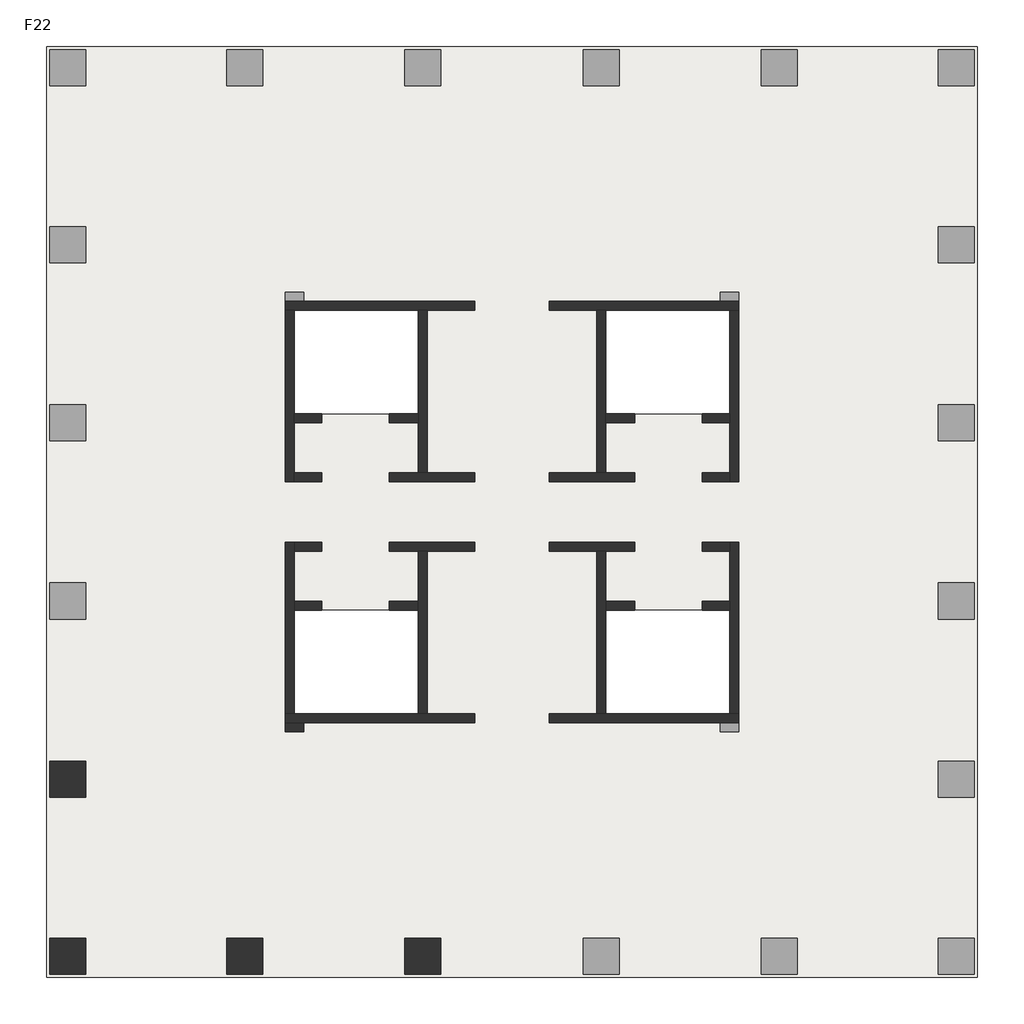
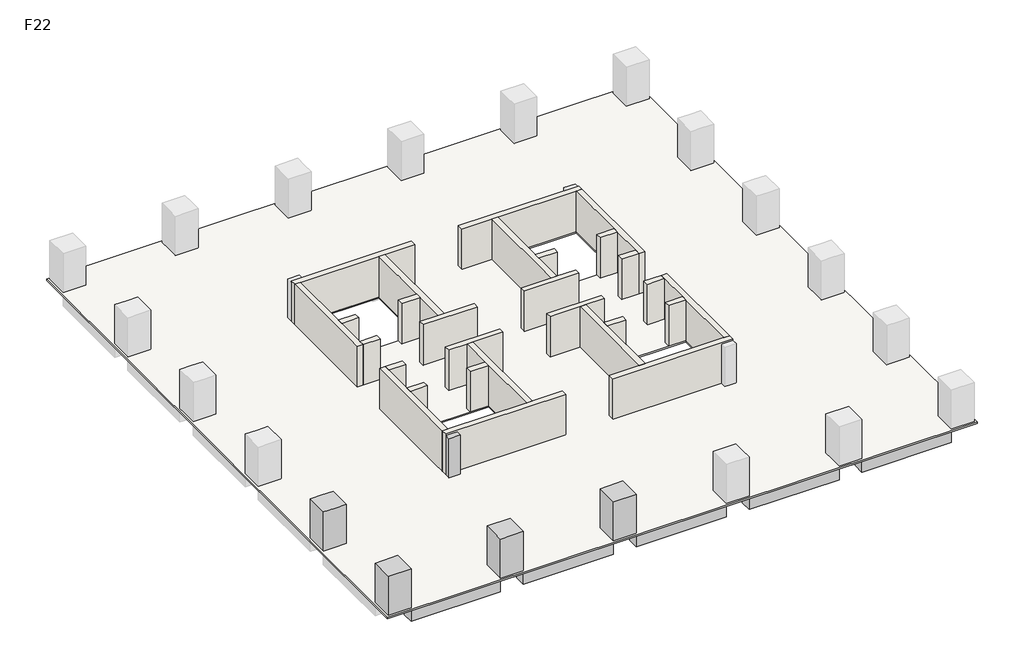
# One storey, part 1 of 2: 28 walls, 5 columns, 3 beams, 1 slab.
"""IFC4 building model written with IfcOpenShell, lengths in millimetres."""

from ifc_helpers import new_model, si_unit, frame, origin, place, context, project, spatial, polyline, outline, extrude, faceted_brep, element, save

model = new_model("IFC4")

# Units and contexts
model_context = context("Model", 3, world=origin())
ifc_project = project(units=[si_unit("LENGTHUNIT", "METRE", prefix="MILLI")], contexts=[model_context])

# Site, building, storey
site = spatial("IfcSite", under=ifc_project)
building = spatial("IfcBuilding", under=site)
storey = spatial("IfcBuildingStorey", under=building, Name="F22", Elevation=84000.0)

# Beams
placement = place(None, origin())
element("IfcBeam", 1, ObjectType="混凝土 - 矩形梁 : KL(5)-800x1000", at=placement, inside=storey, context=model_context, shape_type="SweptSolid", body=[
    extrude(outline(polyline([(-12472.6742169, -13948.9501342), (-12472.6742169, -13148.9501342), (-6222.6742169, -13148.9501342), (-6222.6742169, -13948.9501342), (-12472.6742169, -13948.9501342)])), frame((0.0, 0.0, 83000.0), z_axis=(0.0, 0.0, 1.0), x_axis=(1.0, 0.0, 0.0)), (0.0, 0.0, 1.0), 900.0),
    extrude(outline(polyline([(25327.3257831, -13148.9501342), (25327.3257831, -13948.9501342), (19077.3257831, -13948.9501342), (19077.3257831, -13148.9501342), (25327.3257831, -13148.9501342)])), frame((0.0, 0.0, 83000.0), z_axis=(0.0, 0.0, 1.0), x_axis=(1.0, 0.0, 0.0)), (0.0, 0.0, 1.0), 900.0),
    extrude(outline(polyline([(-4622.6742169, -13948.9501342), (-4622.6742169, -13148.9501342), (1677.3257831, -13148.9501342), (1677.3257831, -13948.9501342), (-4622.6742169, -13948.9501342)])), frame((0.0, 0.0, 83000.0), z_axis=(0.0, 0.0, 1.0), x_axis=(1.0, 0.0, 0.0)), (0.0, 0.0, 1.0), 900.0),
    extrude(outline(polyline([(3277.3257831, -13948.9501342), (3277.3257831, -13148.9501342), (9577.3257831, -13148.9501342), (9577.3257831, -13948.9501342), (3277.3257831, -13948.9501342)])), frame((0.0, 0.0, 83000.0), z_axis=(0.0, 0.0, 1.0), x_axis=(1.0, 0.0, 0.0)), (0.0, 0.0, 1.0), 900.0),
    extrude(outline(polyline([(11177.3257831, -13948.9501342), (11177.3257831, -13148.9501342), (17477.3257831, -13148.9501342), (17477.3257831, -13948.9501342), (11177.3257831, -13948.9501342)])), frame((0.0, 0.0, 83000.0), z_axis=(0.0, 0.0, 1.0), x_axis=(1.0, 0.0, 0.0)), (0.0, 0.0, 1.0), 900.0),
])
element("IfcBeam", 2, ObjectType="混凝土 - 矩形梁 : L1-800x500", at=placement, inside=storey, context=model_context, shape_type="Brep", body=[
    faceted_brep([(-12472.6742169, -5512.1353397, 83500.0), (-3746.9473979, -3341.556529, 83500.0), (-3173.6696907, -3198.9501342, 83500.0), (-3173.6696907, -3198.9501342, 83900.0), (-3746.9473979, -3341.556529, 83900.0), (-12472.6742169, -5512.1353397, 83900.0), (-3622.6742169, -3198.9501342, 83500.0), (-12472.6742169, -4687.7549784, 83500.0), (-3622.6742169, -2486.2624411, 83500.0), (-3622.6742169, -2798.9501342, 83500.0), (-12472.6742169, -4687.7549784, 83900.0), (-3622.6742169, -2486.2624411, 83900.0), (-3622.6742169, -3198.9501342, 83900.0)], [[[0, 1, 2, 3, 4, 5]], [[6, 2, 1, 0, 7, 8, 9]], [[8, 7, 10, 11]], [[2, 6, 12, 3]], [[9, 8, 11, 12, 6]], [[7, 0, 5, 10]], [[5, 4, 3, 12, 11, 10]]]),
])
element("IfcBeam", 3, ObjectType="混凝土 - 矩形梁 : L1-800x500", at=placement, inside=storey, context=model_context, shape_type="SweptSolid", body=[
    extrude(outline(polyline([(-3746.9473979, -3341.556529), (-3173.6696907, -3198.9501342), (-2898.7618154, -3198.9501342), (-4843.6893517, -12348.9501342), (-5661.5624638, -12348.9501342), (-3746.9473979, -3341.556529)])), frame((0.0, 0.0, 83500.0), z_axis=(0.0, 0.0, 1.0), x_axis=(1.0, 0.0, 0.0)), (0.0, 0.0, 1.0), 400.0),
])

# Columns
element("IfcColumn", 4, ObjectType="混凝土 - 矩形 - 柱 : Z1-1600x1600", at=placement, inside=storey, context=model_context, shape_type="Brep", body=[
    faceted_brep([(-12472.6742169, -4498.9501342, 84000.0), (-12472.6742169, -6098.9501342, 84000.0), (-14072.6742169, -6098.9501342, 84000.0), (-14072.6742169, -4498.9501342, 84000.0), (-12472.6742169, -4498.9501342, 86900.0), (-12472.6742169, -6098.9501342, 86900.0), (-13272.6742169, -6098.9501342, 86900.0), (-14072.6742169, -6098.9501342, 86900.0), (-14072.6742169, -6098.9501342, 86000.0), (-14072.6742169, -4498.9501342, 86900.0), (-14072.6742169, -4498.9501342, 86000.0), (-13272.6742169, -4498.9501342, 86900.0)], [[[0, 1, 2, 3]], [[1, 0, 4, 5]], [[2, 1, 5, 6, 7, 8]], [[3, 2, 8, 7, 9, 10]], [[0, 3, 10, 9, 11, 4]], [[5, 4, 11, 9, 7, 6]]]),
])
element("IfcColumn", 5, ObjectType="混凝土 - 矩形 - 柱 : Z1-1600x1600", at=placement, inside=storey, context=model_context, shape_type="SweptSolid", body=[
    extrude(outline(polyline([(-12472.6742169, -12348.9501342), (-12472.6742169, -13948.9501342), (-14072.6742169, -13948.9501342), (-14072.6742169, -12348.9501342), (-12472.6742169, -12348.9501342)])), frame((0.0, 0.0, 84000.0), z_axis=(0.0, 0.0, 1.0), x_axis=(1.0, 0.0, 0.0)), (0.0, 0.0, 1.0), 2900.0),
])
element("IfcColumn", 6, ObjectType="混凝土 - 矩形 - 柱 : Z1-1600x1600", at=placement, inside=storey, context=model_context, shape_type="Brep", body=[
    faceted_brep([(-4622.6742169, -12348.9501342, 84000.0), (-4622.6742169, -13948.9501342, 84000.0), (-6222.6742169, -13948.9501342, 84000.0), (-6222.6742169, -12348.9501342, 84000.0), (-4622.6742169, -12348.9501342, 86900.0), (-4622.6742169, -13148.9501342, 86900.0), (-4622.6742169, -13948.9501342, 86900.0), (-4622.6742169, -13948.9501342, 86000.0), (-6222.6742169, -13948.9501342, 86900.0), (-6222.6742169, -13948.9501342, 86000.0), (-6222.6742169, -13148.9501342, 86900.0), (-6222.6742169, -12348.9501342, 86900.0)], [[[0, 1, 2, 3]], [[1, 0, 4, 5, 6, 7]], [[2, 1, 7, 6, 8, 9]], [[3, 2, 9, 8, 10, 11]], [[0, 3, 11, 4]], [[6, 5, 4, 11, 10, 8]]]),
])
element("IfcColumn", 7, ObjectType="混凝土 - 矩形 - 柱 : Z1-1600x1600", at=placement, inside=storey, context=model_context, shape_type="Brep", body=[
    faceted_brep([(3277.3257831, -12348.9501342, 84000.0), (3277.3257831, -13948.9501342, 84000.0), (1677.3257831, -13948.9501342, 84000.0), (1677.3257831, -12348.9501342, 84000.0), (3277.3257831, -12348.9501342, 86900.0), (3277.3257831, -13148.9501342, 86900.0), (3277.3257831, -13948.9501342, 86900.0), (3277.3257831, -13948.9501342, 86000.0), (1677.3257831, -13948.9501342, 86900.0), (1677.3257831, -13948.9501342, 86000.0), (1677.3257831, -13148.9501342, 86900.0), (1677.3257831, -12348.9501342, 86900.0)], [[[0, 1, 2, 3]], [[1, 0, 4, 5, 6, 7]], [[2, 1, 7, 6, 8, 9]], [[3, 2, 9, 8, 10, 11]], [[0, 3, 11, 4]], [[6, 5, 4, 11, 10, 8]]]),
])
element("IfcColumn", 8, ObjectType="混凝土 - 矩形 - 柱 : Z2-800x800", at=placement, inside=storey, context=model_context, shape_type="SweptSolid", body=[
    extrude(outline(polyline([(-2822.6742169, -3198.9501342), (-3622.6742169, -3198.9501342), (-3622.6742169, -2798.9501342), (-2822.6742169, -2798.9501342), (-2822.6742169, -3198.9501342)])), frame((0.0, 0.0, 84000.0), z_axis=(0.0, 0.0, 1.0), x_axis=(1.0, 0.0, 0.0)), (0.0, 0.0, 1.0), 2900.0),
])

# Slab
element("IfcSlab", 9, ObjectType="LB-100", at=placement, inside=storey, context=model_context, shape_type="SweptSolid", body=[
    extrude(outline(polyline([(27077.3257831, 27201.0498658), (27077.3257831, -14085.2672073), (-14222.6742169, -14085.2672073), (-14222.6742169, 27201.0498658), (27077.3257831, 27201.0498658)]), holes=[polyline([(2277.3257831, 15501.0498658), (-3222.6742169, 15501.0498658), (-3222.6742169, 10901.0498658), (2277.3257831, 10901.0498658), (2277.3257831, 15501.0498658)]), polyline([(2277.3257831, 2201.0498658), (-3222.6742169, 2201.0498658), (-3222.6742169, -2398.9501342), (2277.3257831, -2398.9501342), (2277.3257831, 2201.0498658)]), polyline([(16077.3257831, 2201.0498658), (10577.3257831, 2201.0498658), (10577.3257831, -2398.9501342), (16077.3257831, -2398.9501342), (16077.3257831, 2201.0498658)]), polyline([(16077.3257831, 15501.0498658), (10577.3257831, 15501.0498658), (10577.3257831, 10901.0498658), (16077.3257831, 10901.0498658), (16077.3257831, 15501.0498658)])]), frame((0.0, 0.0, 83900.0), z_axis=(0.0, 0.0, 1.0), x_axis=(1.0, 0.0, 0.0)), (0.0, 0.0, 1.0), 100.0),
])

# Walls
element("IfcWall", 10, ObjectType="剪力墙-400", at=placement, inside=storey, context=model_context, shape_type="Brep", body=[
    faceted_brep([(-3622.6742169, 15501.0498658, 84000.0), (-3222.6742169, 15501.0498658, 84000.0), (2277.3257831, 15501.0498658, 84000.0), (2677.3257831, 15501.0498658, 84000.0), (4777.3257831, 15501.0498658, 84000.0), (4777.3257831, 15501.0498658, 87000.0), (2677.3257831, 15501.0498658, 87000.0), (2277.3257831, 15501.0498658, 87000.0), (-3222.6742169, 15501.0498658, 87000.0), (-3622.6742169, 15501.0498658, 87000.0), (-3622.6742169, 15901.0498658, 84000.0), (-3622.6742169, 15901.0498658, 86900.0), (-3622.6742169, 15901.0498658, 87000.0), (4777.3257831, 15901.0498658, 87000.0), (4777.3257831, 15901.0498658, 84000.0), (-2822.6742169, 15901.0498658, 84000.0)], [[[0, 1, 2, 3, 4, 5, 6, 7, 8, 9]], [[10, 11, 12, 13, 14, 15]], [[4, 3, 2, 1, 0, 10, 15, 14]], [[5, 4, 14, 13]], [[9, 8, 7, 6, 5, 13, 12]], [[0, 9, 12, 11, 10]]]),
])
element("IfcWall", 11, ObjectType="剪力墙-400", at=placement, inside=storey, context=model_context, shape_type="Brep", body=[
    faceted_brep([(2277.3257831, 15501.0498658, 84000.0), (2277.3257831, 10901.0498658, 84000.0), (2277.3257831, 10501.0498658, 84000.0), (2277.3257831, 8301.0498658, 84000.0), (2277.3257831, 8301.0498658, 87000.0), (2277.3257831, 10501.0498658, 87000.0), (2277.3257831, 10901.0498658, 87000.0), (2277.3257831, 15501.0498658, 87000.0), (2677.3257831, 15501.0498658, 84000.0), (2677.3257831, 15501.0498658, 87000.0), (2677.3257831, 8301.0498658, 87000.0), (2677.3257831, 8301.0498658, 84000.0)], [[[0, 1, 2, 3, 4, 5, 6, 7]], [[8, 9, 10, 11]], [[3, 2, 1, 0, 8, 11]], [[7, 6, 5, 4, 10, 9]], [[0, 7, 9, 8]], [[4, 3, 11, 10]]]),
])
element("IfcWall", 12, ObjectType="剪力墙-400", at=placement, inside=storey, context=model_context, shape_type="Brep", body=[
    faceted_brep([(-3622.6742169, 15501.0498658, 84000.0), (-3622.6742169, 7901.0498658, 84000.0), (-3622.6742169, 7901.0498658, 87000.0), (-3622.6742169, 15501.0498658, 87000.0), (-3222.6742169, 15501.0498658, 84000.0), (-3222.6742169, 15501.0498658, 87000.0), (-3222.6742169, 10901.0498658, 87000.0), (-3222.6742169, 10501.0498658, 87000.0), (-3222.6742169, 8301.0498658, 87000.0), (-3222.6742169, 7901.0498658, 87000.0), (-3222.6742169, 7901.0498658, 84000.0), (-3222.6742169, 8301.0498658, 84000.0), (-3222.6742169, 10501.0498658, 84000.0), (-3222.6742169, 10901.0498658, 84000.0)], [[[0, 1, 2, 3]], [[4, 5, 6, 7, 8, 9, 10, 11, 12, 13]], [[1, 0, 4, 13, 12, 11, 10]], [[3, 2, 9, 8, 7, 6, 5]], [[0, 3, 5, 4]], [[2, 1, 10, 9]]]),
])
element("IfcWall", 13, ObjectType="剪力墙-400", at=placement, inside=storey, context=model_context, shape_type="SweptSolid", body=[
    extrude(outline(polyline([(-2022.6742169, 7901.0498658), (-3222.6742169, 7901.0498658), (-3222.6742169, 8301.0498658), (-2022.6742169, 8301.0498658), (-2022.6742169, 7901.0498658)])), frame((0.0, 0.0, 84000.0), z_axis=(0.0, 0.0, 1.0), x_axis=(1.0, 0.0, 0.0)), (0.0, 0.0, 1.0), 3000.0),
])
element("IfcWall", 14, ObjectType="剪力墙-400", at=placement, inside=storey, context=model_context, shape_type="Brep", body=[
    faceted_brep([(977.3257831, 7901.0498658, 84000.0), (4777.3257831, 7901.0498658, 84000.0), (4777.3257831, 7901.0498658, 87000.0), (977.3257831, 7901.0498658, 87000.0), (977.3257831, 8301.0498658, 84000.0), (977.3257831, 8301.0498658, 87000.0), (2277.3257831, 8301.0498658, 87000.0), (2677.3257831, 8301.0498658, 87000.0), (4777.3257831, 8301.0498658, 87000.0), (4777.3257831, 8301.0498658, 84000.0), (2677.3257831, 8301.0498658, 84000.0), (2277.3257831, 8301.0498658, 84000.0)], [[[0, 1, 2, 3]], [[4, 5, 6, 7, 8, 9, 10, 11]], [[1, 0, 4, 11, 10, 9]], [[2, 1, 9, 8]], [[3, 2, 8, 7, 6, 5]], [[0, 3, 5, 4]]]),
])
element("IfcWall", 15, ObjectType="剪力墙-400", at=placement, inside=storey, context=model_context, shape_type="SweptSolid", body=[
    extrude(outline(polyline([(-2022.6742169, 10501.0498658), (-3222.6742169, 10501.0498658), (-3222.6742169, 10901.0498658), (-2022.6742169, 10901.0498658), (-2022.6742169, 10501.0498658)])), frame((0.0, 0.0, 84000.0), z_axis=(0.0, 0.0, 1.0), x_axis=(1.0, 0.0, 0.0)), (0.0, 0.0, 1.0), 3000.0),
])
element("IfcWall", 16, ObjectType="剪力墙-400", at=placement, inside=storey, context=model_context, shape_type="SweptSolid", body=[
    extrude(outline(polyline([(2277.3257831, 10501.0498658), (977.3257831, 10501.0498658), (977.3257831, 10901.0498658), (2277.3257831, 10901.0498658), (2277.3257831, 10501.0498658)])), frame((0.0, 0.0, 84000.0), z_axis=(0.0, 0.0, 1.0), x_axis=(1.0, 0.0, 0.0)), (0.0, 0.0, 1.0), 3000.0),
])
element("IfcWall", 17, ObjectType="剪力墙-400", at=placement, inside=storey, context=model_context, shape_type="Brep", body=[
    faceted_brep([(16477.3257831, 15901.0498658, 84000.0), (15677.3257831, 15901.0498658, 84000.0), (8077.3257831, 15901.0498658, 84000.0), (8077.3257831, 15901.0498658, 87000.0), (16477.3257831, 15901.0498658, 87000.0), (16477.3257831, 15901.0498658, 86900.0), (16477.3257831, 15501.0498658, 84000.0), (16477.3257831, 15501.0498658, 87000.0), (16077.3257831, 15501.0498658, 87000.0), (10577.3257831, 15501.0498658, 87000.0), (10177.3257831, 15501.0498658, 87000.0), (8077.3257831, 15501.0498658, 87000.0), (8077.3257831, 15501.0498658, 84000.0), (10177.3257831, 15501.0498658, 84000.0), (10577.3257831, 15501.0498658, 84000.0), (16077.3257831, 15501.0498658, 84000.0)], [[[0, 1, 2, 3, 4, 5]], [[6, 7, 8, 9, 10, 11, 12, 13, 14, 15]], [[2, 1, 0, 6, 15, 14, 13, 12]], [[3, 2, 12, 11]], [[4, 3, 11, 10, 9, 8, 7]], [[0, 5, 4, 7, 6]]]),
])
element("IfcWall", 18, ObjectType="剪力墙-400", at=placement, inside=storey, context=model_context, shape_type="Brep", body=[
    faceted_brep([(10177.3257831, 15501.0498658, 84000.0), (10177.3257831, 8301.0498658, 84000.0), (10177.3257831, 8301.0498658, 87000.0), (10177.3257831, 15501.0498658, 87000.0), (10577.3257831, 15501.0498658, 84000.0), (10577.3257831, 15501.0498658, 87000.0), (10577.3257831, 10901.0498658, 87000.0), (10577.3257831, 10501.0498658, 87000.0), (10577.3257831, 8301.0498658, 87000.0), (10577.3257831, 8301.0498658, 84000.0), (10577.3257831, 10501.0498658, 84000.0), (10577.3257831, 10901.0498658, 84000.0)], [[[0, 1, 2, 3]], [[4, 5, 6, 7, 8, 9, 10, 11]], [[1, 0, 4, 11, 10, 9]], [[3, 2, 8, 7, 6, 5]], [[0, 3, 5, 4]], [[2, 1, 9, 8]]]),
])
element("IfcWall", 19, ObjectType="剪力墙-400", at=placement, inside=storey, context=model_context, shape_type="Brep", body=[
    faceted_brep([(16077.3257831, 15501.0498658, 84000.0), (16077.3257831, 10901.0498658, 84000.0), (16077.3257831, 10501.0498658, 84000.0), (16077.3257831, 8301.0498658, 84000.0), (16077.3257831, 7901.0498658, 84000.0), (16077.3257831, 7901.0498658, 87000.0), (16077.3257831, 8301.0498658, 87000.0), (16077.3257831, 10501.0498658, 87000.0), (16077.3257831, 10901.0498658, 87000.0), (16077.3257831, 15501.0498658, 87000.0), (16477.3257831, 15501.0498658, 84000.0), (16477.3257831, 15501.0498658, 87000.0), (16477.3257831, 7901.0498658, 87000.0), (16477.3257831, 7901.0498658, 84000.0)], [[[0, 1, 2, 3, 4, 5, 6, 7, 8, 9]], [[10, 11, 12, 13]], [[4, 3, 2, 1, 0, 10, 13]], [[9, 8, 7, 6, 5, 12, 11]], [[0, 9, 11, 10]], [[5, 4, 13, 12]]]),
])
element("IfcWall", 20, ObjectType="剪力墙-400", at=placement, inside=storey, context=model_context, shape_type="SweptSolid", body=[
    extrude(outline(polyline([(14877.3257831, 8301.0498658), (16077.3257831, 8301.0498658), (16077.3257831, 7901.0498658), (14877.3257831, 7901.0498658), (14877.3257831, 8301.0498658)])), frame((0.0, 0.0, 84000.0), z_axis=(0.0, 0.0, 1.0), x_axis=(1.0, 0.0, 0.0)), (0.0, 0.0, 1.0), 3000.0),
])
element("IfcWall", 21, ObjectType="剪力墙-400", at=placement, inside=storey, context=model_context, shape_type="Brep", body=[
    faceted_brep([(11877.3257831, 8301.0498658, 84000.0), (10577.3257831, 8301.0498658, 84000.0), (10177.3257831, 8301.0498658, 84000.0), (8077.3257831, 8301.0498658, 84000.0), (8077.3257831, 8301.0498658, 87000.0), (10177.3257831, 8301.0498658, 87000.0), (10577.3257831, 8301.0498658, 87000.0), (11877.3257831, 8301.0498658, 87000.0), (11877.3257831, 7901.0498658, 84000.0), (11877.3257831, 7901.0498658, 87000.0), (8077.3257831, 7901.0498658, 87000.0), (8077.3257831, 7901.0498658, 84000.0)], [[[0, 1, 2, 3, 4, 5, 6, 7]], [[8, 9, 10, 11]], [[3, 2, 1, 0, 8, 11]], [[4, 3, 11, 10]], [[7, 6, 5, 4, 10, 9]], [[0, 7, 9, 8]]]),
])
element("IfcWall", 22, ObjectType="剪力墙-400", at=placement, inside=storey, context=model_context, shape_type="SweptSolid", body=[
    extrude(outline(polyline([(14877.3257831, 10901.0498658), (16077.3257831, 10901.0498658), (16077.3257831, 10501.0498658), (14877.3257831, 10501.0498658), (14877.3257831, 10901.0498658)])), frame((0.0, 0.0, 84000.0), z_axis=(0.0, 0.0, 1.0), x_axis=(1.0, 0.0, 0.0)), (0.0, 0.0, 1.0), 3000.0),
])
element("IfcWall", 23, ObjectType="剪力墙-400", at=placement, inside=storey, context=model_context, shape_type="SweptSolid", body=[
    extrude(outline(polyline([(10577.3257831, 10901.0498658), (11877.3257831, 10901.0498658), (11877.3257831, 10501.0498658), (10577.3257831, 10501.0498658), (10577.3257831, 10901.0498658)])), frame((0.0, 0.0, 84000.0), z_axis=(0.0, 0.0, 1.0), x_axis=(1.0, 0.0, 0.0)), (0.0, 0.0, 1.0), 3000.0),
])
element("IfcWall", 24, ObjectType="剪力墙-400", at=placement, inside=storey, context=model_context, shape_type="Brep", body=[
    faceted_brep([(-3622.6742169, -2798.9501342, 84000.0), (-2822.6742169, -2798.9501342, 84000.0), (4777.3257831, -2798.9501342, 84000.0), (4777.3257831, -2798.9501342, 87000.0), (-3622.6742169, -2798.9501342, 87000.0), (-3622.6742169, -2798.9501342, 86900.0), (-3622.6742169, -2398.9501342, 84000.0), (-3622.6742169, -2398.9501342, 87000.0), (-3222.6742169, -2398.9501342, 87000.0), (2277.3257831, -2398.9501342, 87000.0), (2677.3257831, -2398.9501342, 87000.0), (4777.3257831, -2398.9501342, 87000.0), (4777.3257831, -2398.9501342, 84000.0), (2677.3257831, -2398.9501342, 84000.0), (2277.3257831, -2398.9501342, 84000.0), (-3222.6742169, -2398.9501342, 84000.0)], [[[0, 1, 2, 3, 4, 5]], [[6, 7, 8, 9, 10, 11, 12, 13, 14, 15]], [[2, 1, 0, 6, 15, 14, 13, 12]], [[3, 2, 12, 11]], [[4, 3, 11, 10, 9, 8, 7]], [[0, 5, 4, 7, 6]]]),
])
element("IfcWall", 25, ObjectType="剪力墙-400", at=placement, inside=storey, context=model_context, shape_type="Brep", body=[
    faceted_brep([(2677.3257831, -2398.9501342, 84000.0), (2677.3257831, 4801.0498658, 84000.0), (2677.3257831, 4801.0498658, 87000.0), (2677.3257831, -2398.9501342, 87000.0), (2277.3257831, -2398.9501342, 84000.0), (2277.3257831, -2398.9501342, 87000.0), (2277.3257831, 2201.0498658, 87000.0), (2277.3257831, 2601.0498658, 87000.0), (2277.3257831, 4801.0498658, 87000.0), (2277.3257831, 4801.0498658, 84000.0), (2277.3257831, 2601.0498658, 84000.0), (2277.3257831, 2201.0498658, 84000.0)], [[[0, 1, 2, 3]], [[4, 5, 6, 7, 8, 9, 10, 11]], [[1, 0, 4, 11, 10, 9]], [[3, 2, 8, 7, 6, 5]], [[0, 3, 5, 4]], [[2, 1, 9, 8]]]),
])
element("IfcWall", 26, ObjectType="剪力墙-400", at=placement, inside=storey, context=model_context, shape_type="Brep", body=[
    faceted_brep([(-3222.6742169, -2398.9501342, 84000.0), (-3222.6742169, 2201.0498658, 84000.0), (-3222.6742169, 2601.0498658, 84000.0), (-3222.6742169, 4801.0498658, 84000.0), (-3222.6742169, 5201.0498658, 84000.0), (-3222.6742169, 5201.0498658, 87000.0), (-3222.6742169, 4801.0498658, 87000.0), (-3222.6742169, 2601.0498658, 87000.0), (-3222.6742169, 2201.0498658, 87000.0), (-3222.6742169, -2398.9501342, 87000.0), (-3622.6742169, -2398.9501342, 84000.0), (-3622.6742169, -2398.9501342, 87000.0), (-3622.6742169, 5201.0498658, 87000.0), (-3622.6742169, 5201.0498658, 84000.0)], [[[0, 1, 2, 3, 4, 5, 6, 7, 8, 9]], [[10, 11, 12, 13]], [[4, 3, 2, 1, 0, 10, 13]], [[9, 8, 7, 6, 5, 12, 11]], [[0, 9, 11, 10]], [[5, 4, 13, 12]]]),
])
element("IfcWall", 27, ObjectType="剪力墙-400", at=placement, inside=storey, context=model_context, shape_type="SweptSolid", body=[
    extrude(outline(polyline([(-2022.6742169, 4801.0498658), (-3222.6742169, 4801.0498658), (-3222.6742169, 5201.0498658), (-2022.6742169, 5201.0498658), (-2022.6742169, 4801.0498658)])), frame((0.0, 0.0, 84000.0), z_axis=(0.0, 0.0, 1.0), x_axis=(1.0, 0.0, 0.0)), (0.0, 0.0, 1.0), 3000.0),
])
element("IfcWall", 28, ObjectType="剪力墙-400", at=placement, inside=storey, context=model_context, shape_type="Brep", body=[
    faceted_brep([(977.3257831, 4801.0498658, 84000.0), (2277.3257831, 4801.0498658, 84000.0), (2677.3257831, 4801.0498658, 84000.0), (4777.3257831, 4801.0498658, 84000.0), (4777.3257831, 4801.0498658, 87000.0), (2677.3257831, 4801.0498658, 87000.0), (2277.3257831, 4801.0498658, 87000.0), (977.3257831, 4801.0498658, 87000.0), (977.3257831, 5201.0498658, 84000.0), (977.3257831, 5201.0498658, 87000.0), (4777.3257831, 5201.0498658, 87000.0), (4777.3257831, 5201.0498658, 84000.0)], [[[0, 1, 2, 3, 4, 5, 6, 7]], [[8, 9, 10, 11]], [[3, 2, 1, 0, 8, 11]], [[4, 3, 11, 10]], [[7, 6, 5, 4, 10, 9]], [[0, 7, 9, 8]]]),
])
element("IfcWall", 29, ObjectType="剪力墙-400", at=placement, inside=storey, context=model_context, shape_type="SweptSolid", body=[
    extrude(outline(polyline([(-2022.6742169, 2201.0498658), (-3222.6742169, 2201.0498658), (-3222.6742169, 2601.0498658), (-2022.6742169, 2601.0498658), (-2022.6742169, 2201.0498658)])), frame((0.0, 0.0, 84000.0), z_axis=(0.0, 0.0, 1.0), x_axis=(1.0, 0.0, 0.0)), (0.0, 0.0, 1.0), 3000.0),
])
element("IfcWall", 30, ObjectType="剪力墙-400", at=placement, inside=storey, context=model_context, shape_type="SweptSolid", body=[
    extrude(outline(polyline([(2277.3257831, 2201.0498658), (977.3257831, 2201.0498658), (977.3257831, 2601.0498658), (2277.3257831, 2601.0498658), (2277.3257831, 2201.0498658)])), frame((0.0, 0.0, 84000.0), z_axis=(0.0, 0.0, 1.0), x_axis=(1.0, 0.0, 0.0)), (0.0, 0.0, 1.0), 3000.0),
])
element("IfcWall", 31, ObjectType="剪力墙-400", at=placement, inside=storey, context=model_context, shape_type="Brep", body=[
    faceted_brep([(16477.3257831, -2398.9501342, 84000.0), (16077.3257831, -2398.9501342, 84000.0), (10577.3257831, -2398.9501342, 84000.0), (10177.3257831, -2398.9501342, 84000.0), (8077.3257831, -2398.9501342, 84000.0), (8077.3257831, -2398.9501342, 87000.0), (10177.3257831, -2398.9501342, 87000.0), (10577.3257831, -2398.9501342, 87000.0), (16077.3257831, -2398.9501342, 87000.0), (16477.3257831, -2398.9501342, 87000.0), (16477.3257831, -2798.9501342, 84000.0), (16477.3257831, -2798.9501342, 86900.0), (16477.3257831, -2798.9501342, 87000.0), (8077.3257831, -2798.9501342, 87000.0), (8077.3257831, -2798.9501342, 84000.0), (15677.3257831, -2798.9501342, 84000.0)], [[[0, 1, 2, 3, 4, 5, 6, 7, 8, 9]], [[10, 11, 12, 13, 14, 15]], [[4, 3, 2, 1, 0, 10, 15, 14]], [[5, 4, 14, 13]], [[9, 8, 7, 6, 5, 13, 12]], [[0, 9, 12, 11, 10]]]),
])
element("IfcWall", 32, ObjectType="剪力墙-400", at=placement, inside=storey, context=model_context, shape_type="Brep", body=[
    faceted_brep([(10577.3257831, -2398.9501342, 84000.0), (10577.3257831, 2201.0498658, 84000.0), (10577.3257831, 2601.0498658, 84000.0), (10577.3257831, 4801.0498658, 84000.0), (10577.3257831, 4801.0498658, 87000.0), (10577.3257831, 2601.0498658, 87000.0), (10577.3257831, 2201.0498658, 87000.0), (10577.3257831, -2398.9501342, 87000.0), (10177.3257831, -2398.9501342, 84000.0), (10177.3257831, -2398.9501342, 87000.0), (10177.3257831, 4801.0498658, 87000.0), (10177.3257831, 4801.0498658, 84000.0)], [[[0, 1, 2, 3, 4, 5, 6, 7]], [[8, 9, 10, 11]], [[3, 2, 1, 0, 8, 11]], [[7, 6, 5, 4, 10, 9]], [[0, 7, 9, 8]], [[4, 3, 11, 10]]]),
])
element("IfcWall", 33, ObjectType="剪力墙-400", at=placement, inside=storey, context=model_context, shape_type="Brep", body=[
    faceted_brep([(16477.3257831, -2398.9501342, 84000.0), (16477.3257831, 5201.0498658, 84000.0), (16477.3257831, 5201.0498658, 87000.0), (16477.3257831, -2398.9501342, 87000.0), (16077.3257831, -2398.9501342, 84000.0), (16077.3257831, -2398.9501342, 87000.0), (16077.3257831, 2201.0498658, 87000.0), (16077.3257831, 2601.0498658, 87000.0), (16077.3257831, 4801.0498658, 87000.0), (16077.3257831, 5201.0498658, 87000.0), (16077.3257831, 5201.0498658, 84000.0), (16077.3257831, 4801.0498658, 84000.0), (16077.3257831, 2601.0498658, 84000.0), (16077.3257831, 2201.0498658, 84000.0)], [[[0, 1, 2, 3]], [[4, 5, 6, 7, 8, 9, 10, 11, 12, 13]], [[1, 0, 4, 13, 12, 11, 10]], [[3, 2, 9, 8, 7, 6, 5]], [[0, 3, 5, 4]], [[2, 1, 10, 9]]]),
])
element("IfcWall", 34, ObjectType="剪力墙-400", at=placement, inside=storey, context=model_context, shape_type="SweptSolid", body=[
    extrude(outline(polyline([(14877.3257831, 5201.0498658), (16077.3257831, 5201.0498658), (16077.3257831, 4801.0498658), (14877.3257831, 4801.0498658), (14877.3257831, 5201.0498658)])), frame((0.0, 0.0, 84000.0), z_axis=(0.0, 0.0, 1.0), x_axis=(1.0, 0.0, 0.0)), (0.0, 0.0, 1.0), 3000.0),
])
element("IfcWall", 35, ObjectType="剪力墙-400", at=placement, inside=storey, context=model_context, shape_type="Brep", body=[
    faceted_brep([(11877.3257831, 5201.0498658, 84000.0), (8077.3257831, 5201.0498658, 84000.0), (8077.3257831, 5201.0498658, 87000.0), (11877.3257831, 5201.0498658, 87000.0), (11877.3257831, 4801.0498658, 84000.0), (11877.3257831, 4801.0498658, 87000.0), (10577.3257831, 4801.0498658, 87000.0), (10177.3257831, 4801.0498658, 87000.0), (8077.3257831, 4801.0498658, 87000.0), (8077.3257831, 4801.0498658, 84000.0), (10177.3257831, 4801.0498658, 84000.0), (10577.3257831, 4801.0498658, 84000.0)], [[[0, 1, 2, 3]], [[4, 5, 6, 7, 8, 9, 10, 11]], [[1, 0, 4, 11, 10, 9]], [[2, 1, 9, 8]], [[3, 2, 8, 7, 6, 5]], [[0, 3, 5, 4]]]),
])
element("IfcWall", 36, ObjectType="剪力墙-400", at=placement, inside=storey, context=model_context, shape_type="SweptSolid", body=[
    extrude(outline(polyline([(14877.3257831, 2601.0498658), (16077.3257831, 2601.0498658), (16077.3257831, 2201.0498658), (14877.3257831, 2201.0498658), (14877.3257831, 2601.0498658)])), frame((0.0, 0.0, 84000.0), z_axis=(0.0, 0.0, 1.0), x_axis=(1.0, 0.0, 0.0)), (0.0, 0.0, 1.0), 3000.0),
])
element("IfcWall", 37, ObjectType="剪力墙-400", at=placement, inside=storey, context=model_context, shape_type="SweptSolid", body=[
    extrude(outline(polyline([(10577.3257831, 2601.0498658), (11877.3257831, 2601.0498658), (11877.3257831, 2201.0498658), (10577.3257831, 2201.0498658), (10577.3257831, 2601.0498658)])), frame((0.0, 0.0, 84000.0), z_axis=(0.0, 0.0, 1.0), x_axis=(1.0, 0.0, 0.0)), (0.0, 0.0, 1.0), 3000.0),
])

save(model, "model.ifc")
